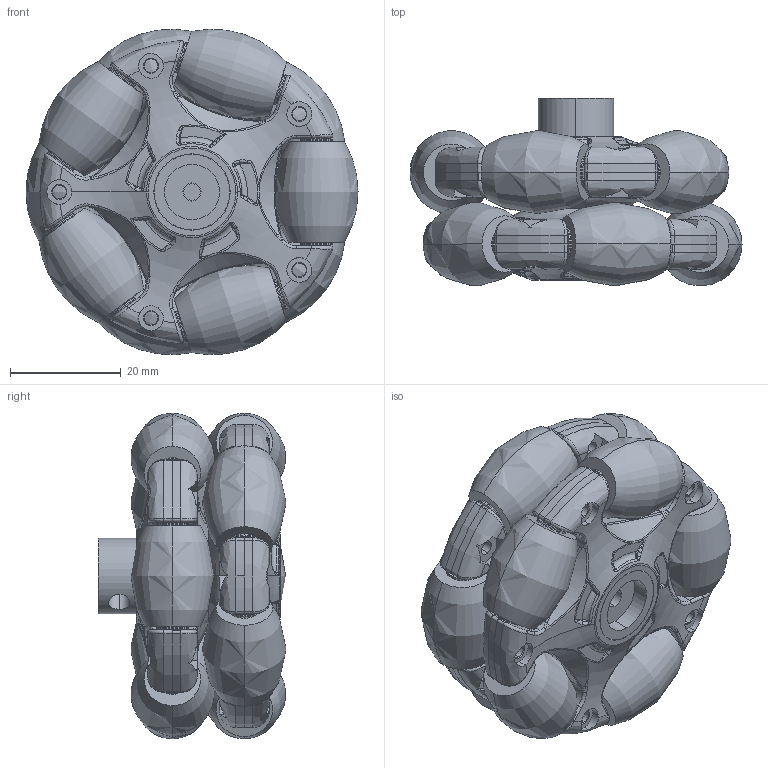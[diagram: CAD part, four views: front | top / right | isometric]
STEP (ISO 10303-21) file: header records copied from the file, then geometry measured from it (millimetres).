
FILE_DESCRIPTION (( 'STEP AP203' ), '1' );
FILE_NAME ('MO108.STEP', '2014-04-09T05:53:56', ( 'Sky123.Org' ), ( 'Sky123.Org' ), 'SwSTEP 2.0', 'SolidWorks 2010', '' );
FILE_SCHEMA (( 'CONFIG_CONTROL_DESIGN' ));
Length unit declared in the file: millimetre
Products named in the file (10): XIN--1_ASM; YOU_ASM; LUN-F; LUAN-E; JIAOLUN; XIN--; XIN; F; H; MO108
Assembly tree (30 placements, depth 4):
  MO108
    XIN--  x5
    XIN--1_ASM  x5
      JIAOLUN
      XIN
    F
    LUN-F
    LUAN-E
    H
    YOU_ASM
      LUAN-E
      XIN--1_ASM  x5
        JIAOLUN
        XIN
      LUN-F
      XIN--  x5
Bounding box: 60.05 x 33.89 x 58.87 mm (x, y, z)
Volume: 42585.3 mm3; surface area: 58030.1 mm2
Topology: 26 solids, 66 shells, 1772 faces, 4474 edges, 2703 vertices
Faces by surface type: bspline 734, cylinder 527, plane 327, torus 124, cone 60
Entity records: 39091 total; most frequent: CARTESIAN_POINT 23638, ORIENTED_EDGE 3562, DIRECTION 2033, EDGE_CURVE 1783, VERTEX_POINT 1094, AXIS2_PLACEMENT_3D 818, EDGE_LOOP 763, FACE_OUTER_BOUND 716
